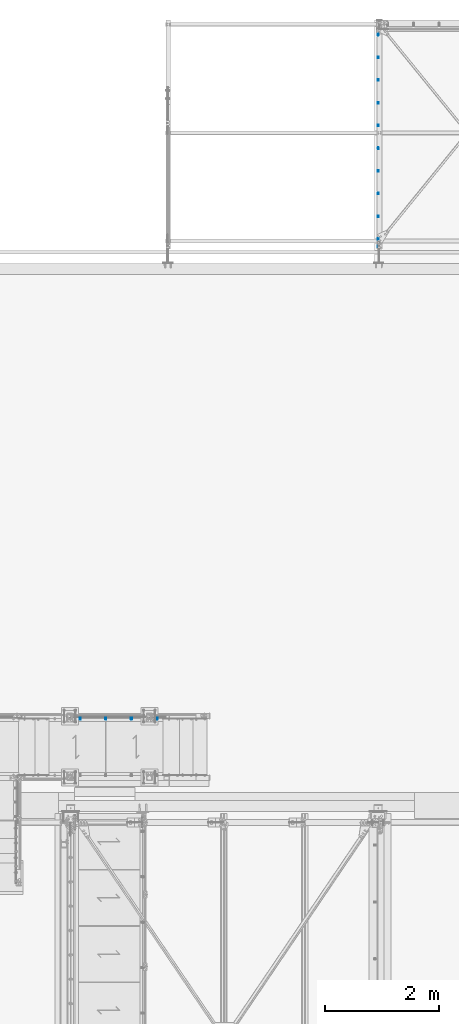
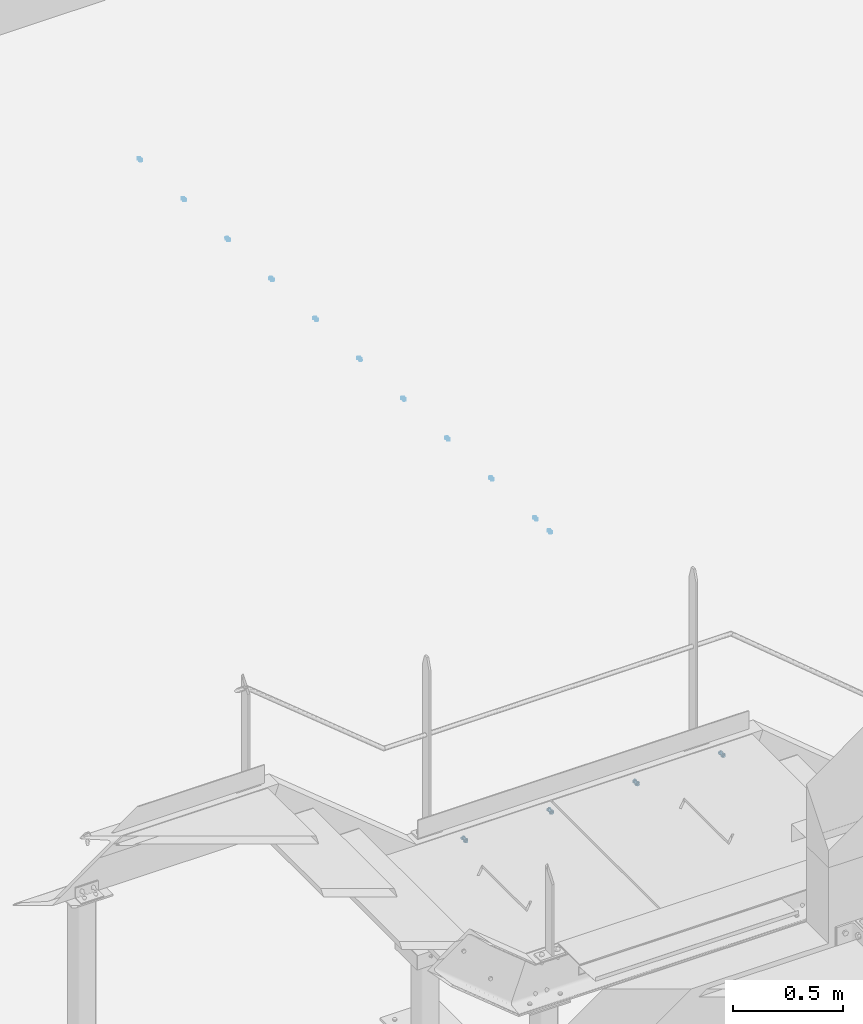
# One storey, part 137 of 362: 2 mechanical fasteners.
"""IFC2X3 building model written with IfcOpenShell, lengths in millimetres."""

import ifcopenshell
import ifcopenshell.guid

model = None  # the IFC model being written
_history = None  # IfcOwnerHistory: only IFC2X3 demands one
_inside = {}  # id of a spatial element -> (the spatial element, [elements in it])
_under = {}  # id of a project, library or spatial element -> (it, [spatial elements below it])
_declared = {}  # id of a project -> (the project, [libraries it declares])
_typed = {}  # id of a type object -> (the type object, [elements of that type])
_made_of = {}  # id of a material, layer set ... -> (it, [elements and type objects made of it])


def new_model(schema):
    """Start an empty IFC model of exactly this schema.

    Asked for "IFC4X3", IfcOpenShell would pick the latest addendum, in which some entities
    have other attributes; the version numbers below select the first issue.
    IFC2X3 requires an IfcOwnerHistory on every rooted entity: one is made here for all.
    """
    global model, _history
    if schema == "IFC4X3":
        model = ifcopenshell.file(schema_version=(4, 3, 0, 0))
    else:
        model = ifcopenshell.file(schema=schema)
    _inside.clear()
    _under.clear()
    _declared.clear()
    _typed.clear()
    _made_of.clear()
    _history = None
    if model.schema == "IFC2X3":
        org = make("IfcOrganization", Name="unknown")
        user = make(
            "IfcPersonAndOrganization",
            ThePerson=make("IfcPerson", FamilyName="unknown"),
            TheOrganization=org,
        )
        app = make(
            "IfcApplication",
            ApplicationDeveloper=org,
            Version="unknown",
            ApplicationFullName="unknown",
            ApplicationIdentifier="unknown",
        )
        _history = make(
            "IfcOwnerHistory",
            OwningUser=user,
            OwningApplication=app,
            ChangeAction="ADDED",
            CreationDate=0,
        )
    return model


def make(cls, **values):
    """One entity of the class cls with the attributes given. An attribute that is None is left unset."""
    return model.create_entity(
        cls, **{name: value for name, value in values.items() if value is not None}
    )


def rooted(cls, **values):
    """An entity with a GlobalId (a new one), such as an element, a storey or a relation."""
    return make(cls, GlobalId=ifcopenshell.guid.new(), OwnerHistory=_history, **values)


def si_unit(unit_type, name, prefix=None):
    """IfcSIUnit, for example si_unit("LENGTHUNIT", "METRE", prefix="MILLI")."""
    return make("IfcSIUnit", UnitType=unit_type, Prefix=prefix, Name=name)


def assignment(units):
    """IfcUnitAssignment: the units of a project."""
    return None if units is None else make("IfcUnitAssignment", Units=units)


def point(xyz):
    """IfcCartesianPoint."""
    return None if xyz is None else make("IfcCartesianPoint", Coordinates=xyz)


def direction(xyz):
    """IfcDirection."""
    return None if xyz is None else make("IfcDirection", DirectionRatios=xyz)


def frame(location, z_axis=None, x_axis=None):
    """IfcAxis2Placement3D, a coordinate frame: its origin and axes. An axis left out is left unset."""
    return make(
        "IfcAxis2Placement3D",
        Location=point(location),
        Axis=direction(z_axis),
        RefDirection=direction(x_axis),
    )


def frame_2d(location, x_axis=None):
    """IfcAxis2Placement2D, a coordinate frame in the plane: its origin and x axis."""
    return make(
        "IfcAxis2Placement2D", Location=point(location), RefDirection=direction(x_axis)
    )


def origin_with_axes():
    """The frame at (0, 0, 0) with the z axis (0, 0, 1) and the x axis (1, 0, 0) written out."""
    return frame((0.0, 0.0, 0.0), z_axis=(0.0, 0.0, 1.0), x_axis=(1.0, 0.0, 0.0))


def origin_2d_with_axis():
    """The frame at (0, 0) in the plane with the x axis (1, 0) written out."""
    return frame_2d((0.0, 0.0), x_axis=(1.0, 0.0))


def place(relative_to, where):
    """IfcLocalPlacement: puts the frame where relative to a parent placement (None: the world)."""
    return make(
        "IfcLocalPlacement", PlacementRelTo=relative_to, RelativePlacement=where
    )


def context(
    kind, dimensions, precision=None, world=None, true_north=None, identifier=None
):
    """IfcGeometricRepresentationContext, for example the 3D "Model" context."""
    return make(
        "IfcGeometricRepresentationContext",
        ContextIdentifier=identifier,
        ContextType=kind,
        CoordinateSpaceDimension=dimensions,
        Precision=precision,
        WorldCoordinateSystem=world,
        TrueNorth=true_north,
    )


def subcontext(parent, identifier, kind, view, scale=None):
    """IfcGeometricRepresentationSubContext, for example "Body" below "Model"."""
    return make(
        "IfcGeometricRepresentationSubContext",
        ContextIdentifier=identifier,
        ContextType=kind,
        ParentContext=parent,
        TargetScale=scale,
        TargetView=view,
    )


def project(units=None, contexts=None):
    """IfcProject with its units and contexts."""
    return rooted(
        "IfcProject",
        Name="project",
        RepresentationContexts=contexts,
        UnitsInContext=assignment(units),
    )


def spatial(cls, under=None, at=None, **own):
    """A site, building, storey or space (cls), placed at a placement, below another one or the project."""
    s = rooted(cls, ObjectPlacement=at, **own)
    if under is not None:
        _under.setdefault(under.id(), (under, []))[1].append(s)
    return s


def polyline(points):
    """IfcPolyline through the points."""
    return make("IfcPolyline", Points=[point(p) for p in points])


def circle_curve(where, radius):
    """IfcCircle in the frame where."""
    return make("IfcCircle", Position=where, Radius=radius)


def parameter(value):
    """IfcParameterValue: where a trimmed curve begins or ends, as a parameter of its basis curve."""
    return model.create_entity("IfcParameterValue", value)


def trimmed(basis, trim1, trim2, sense, master):
    """IfcTrimmedCurve: the piece of a basis curve between two trims."""
    return make(
        "IfcTrimmedCurve",
        BasisCurve=basis,
        Trim1=trim1,
        Trim2=trim2,
        SenseAgreement=sense,
        MasterRepresentation=master,
    )


def segment(curve, same_sense, transition):
    """IfcCompositeCurveSegment."""
    return make(
        "IfcCompositeCurveSegment",
        Transition=transition,
        SameSense=same_sense,
        ParentCurve=curve,
    )


def composite_curve(segments, self_intersect=None):
    """IfcCompositeCurve: segments joined end to end."""
    return make("IfcCompositeCurve", Segments=segments, SelfIntersect=self_intersect)


def profile(cls, at=None, kind="AREA", **sizes):
    """A parametric profile (cls). Its sizes go by their IFC names, for example OverallWidth=200.0."""
    return make(cls, ProfileType=kind, Position=at, **sizes)


def circle(**sizes):
    """IfcCircleProfileDef."""
    return profile("IfcCircleProfileDef", **sizes)


def outline(outer, holes=None, kind="AREA"):
    """IfcArbitraryClosedProfileDef: a profile drawn as a closed curve; with holes, ...WithVoids."""
    if holes is None:
        return make("IfcArbitraryClosedProfileDef", ProfileType=kind, OuterCurve=outer)
    return make(
        "IfcArbitraryProfileDefWithVoids",
        ProfileType=kind,
        OuterCurve=outer,
        InnerCurves=holes,
    )


def extrude(swept, where, along, depth):
    """IfcExtrudedAreaSolid: the profile swept, set in the frame where, extruded along a direction by depth."""
    return make(
        "IfcExtrudedAreaSolid",
        SweptArea=swept,
        Position=where,
        ExtrudedDirection=direction(along),
        Depth=depth,
    )


def shape(context_of_items, identifier, shape_type, items):
    """IfcShapeRepresentation: the items that make up one representation, for example the "Body"."""
    return make(
        "IfcShapeRepresentation",
        ContextOfItems=context_of_items,
        RepresentationIdentifier=identifier,
        RepresentationType=shape_type,
        Items=items,
    )


def source(mapping_origin, context_of_items, identifier, shape_type, items):
    """IfcRepresentationMap: a shape defined once, which mapped items show again and again."""
    return make(
        "IfcRepresentationMap",
        MappingOrigin=mapping_origin,
        MappedRepresentation=shape(context_of_items, identifier, shape_type, items),
    )


def transform(
    local_origin,
    x_axis=None,
    y_axis=None,
    z_axis=None,
    scale=None,
    scale2=None,
    scale3=None,
    uniform=True,
):
    """IfcCartesianTransformationOperator3D, or its non-uniform kind. x_axis, y_axis, z_axis: its Axis1, 2, 3."""
    if uniform:
        return make(
            "IfcCartesianTransformationOperator3D",
            Axis1=direction(x_axis),
            Axis2=direction(y_axis),
            LocalOrigin=point(local_origin),
            Scale=scale,
            Axis3=direction(z_axis),
        )
    return make(
        "IfcCartesianTransformationOperator3DnonUniform",
        Axis1=direction(x_axis),
        Axis2=direction(y_axis),
        LocalOrigin=point(local_origin),
        Scale=scale,
        Axis3=direction(z_axis),
        Scale2=scale2,
        Scale3=scale3,
    )


def mapped(mapping_source, mapping_target):
    """IfcMappedItem: shows the shape of a source again, moved by a transform."""
    return make(
        "IfcMappedItem", MappingSource=mapping_source, MappingTarget=mapping_target
    )


def material(Name=None, Category=None):
    """IfcMaterial."""
    return make("IfcMaterial", Name=Name, Category=Category)


def made_of(thing, what):
    """Note that an element or type object is made of a material, layer set ...; save() writes the relation."""
    if what is not None:
        _made_of.setdefault(what.id(), (what, []))[1].append(thing)
    return thing


def type_object(cls, material=None, **own):
    """A type object (cls), such as IfcWallType, which elements share."""
    return made_of(rooted(cls, **own), material)


def element(
    cls,
    number,
    at=None,
    inside=None,
    cuts=None,
    type_object=None,
    material=None,
    context=None,
    identifier="Body",
    shape_type=None,
    held_by="IfcProductDefinitionShape",
    body=None,
    shapes=None,
    **own,
):
    """One element of the class cls, such as IfcWall. Its Tag is "e" and its number.

    at: its placement. inside: the storey or other place that contains it. cuts: it is an
    opening in that element (IfcRelVoidsElement). A single representation is given by context,
    identifier, shape_type and body (its items); several are given by shapes. held_by: the class
    of the entity that holds the representations. save() writes the other relations.
    """
    e = rooted(cls, Tag="e%d" % number, ObjectPlacement=at, **own)
    if body is not None:
        shapes = [shape(context, identifier, shape_type, body)]
    if shapes is not None:
        e.Representation = make(held_by, Representations=shapes)
    if inside is not None:
        _inside.setdefault(inside.id(), (inside, []))[1].append(e)
    if cuts is not None:
        rooted(
            "IfcRelVoidsElement", RelatingBuildingElement=cuts, RelatedOpeningElement=e
        )
    if type_object is not None:
        _typed.setdefault(type_object.id(), (type_object, []))[1].append(e)
    return made_of(e, material)


def aggregate(whole, parts):
    """IfcRelAggregates: a whole, such as a stair, and the parts it consists of."""
    return rooted("IfcRelAggregates", RelatingObject=whole, RelatedObjects=parts)


def save(model, path):
    """Write the relations noted so far, then the file.

    IfcRelAggregates (storeys below a building ...), IfcRelContainedInSpatialStructure (elements
    in a storey), IfcRelDefinesByType, IfcRelAssociatesMaterial and IfcRelDeclares: one each for
    every whole, place, type object, material and project.
    """
    for whole, parts in _under.values():
        aggregate(whole, parts)
    for where, things in _inside.values():
        rooted(
            "IfcRelContainedInSpatialStructure",
            RelatedElements=things,
            RelatingStructure=where,
        )
    for kind, things in _typed.values():
        rooted("IfcRelDefinesByType", RelatedObjects=things, RelatingType=kind)
    for what, things in _made_of.values():
        rooted("IfcRelAssociatesMaterial", RelatedObjects=things, RelatingMaterial=what)
    for by, libraries in _declared.values():
        rooted("IfcRelDeclares", RelatingContext=by, RelatedDefinitions=libraries)
    model.write(path)


model = new_model("IFC2X3")

# Units and contexts
model_context = context("Model", 3, precision=1e-05, world=origin_with_axes())
body_context = subcontext(model_context, "Body", "Model", "MODEL_VIEW")
ifc_project = project(units=[si_unit("LENGTHUNIT", "METRE", prefix="MILLI"), si_unit("AREAUNIT", "SQUARE_METRE"), si_unit("VOLUMEUNIT", "CUBIC_METRE"), si_unit("MASSUNIT", "GRAM", prefix="KILO"), si_unit("TIMEUNIT", "SECOND"), si_unit("PLANEANGLEUNIT", "RADIAN"), si_unit("SOLIDANGLEUNIT", "STERADIAN"), si_unit("THERMODYNAMICTEMPERATUREUNIT", "DEGREE_CELSIUS"), si_unit("LUMINOUSINTENSITYUNIT", "LUMEN")], contexts=[model_context])

# Site, building, storey
site_placement = place(None, origin_with_axes())
site = spatial("IfcSite", under=ifc_project, at=site_placement, Name="Undefined", CompositionType="ELEMENT")
building_placement = place(site_placement, origin_with_axes())
building = spatial("IfcBuilding", under=site, at=building_placement, Name="Undefined", CompositionType="ELEMENT")
storey_placement = place(building_placement, origin_with_axes())
storey = spatial("IfcBuildingStorey", under=building, at=storey_placement, Name="Undefined", CompositionType="ELEMENT", Elevation=0.0)

# Mechanical fasteners
ifc_material_1 = material(Name="8.8-SB-GALVA")
mechanical_fastener_type = type_object("IfcMechanicalFastenerType", Name="Bolt assembly")
shared_shape_1 = source(origin_with_axes(), body_context, "Body", "SweptSolid", [
    extrude(circle(Radius=7.0, at=origin_2d_with_axis()), frame((0.0, -9.89949506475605, 0.0), z_axis=(0.0, 1.0, 0.0), x_axis=(1.0, 0.0, 0.0)), (0.0, 0.0, 1.0), 10.0),
    extrude(circle(Radius=7.0, at=origin_2d_with_axis()), frame((0.0, -0.100011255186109, 0.0), z_axis=(0.0, 1.0, 0.0), x_axis=(1.0, 0.0, 0.0)), (0.0, 0.0, 1.0), 5.1),
    extrude(outline(polyline([(10.39230484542, 0.0), (5.19615242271, 9.00000000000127), (-5.19615242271, 9.00000000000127), (-10.39230484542, 0.0), (-5.19615242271, -9.00000000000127), (5.19615242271, -9.00000000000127), (10.39230484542, 0.0)])), frame((0.0, -17.919495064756, 0.0), z_axis=(0.0, 1.0, 0.0), x_axis=(1.0, 0.0, 0.0)), (0.0, 0.0, 1.0), 7.92),
    extrude(circle(Radius=6.0, at=origin_2d_with_axis()), frame((0.0, -9.99949506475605, 0.0), z_axis=(0.0, 1.0, 0.0), x_axis=(1.0, 0.0, 0.0)), (0.0, 0.0, 1.0), 30.0),
    extrude(outline(polyline([(11.5008173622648, 0.0), (5.7504086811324, 9.96000000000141), (-5.7504086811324, 9.96000000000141), (-11.5008173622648, 0.0), (-5.7504086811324, -9.96000000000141), (5.7504086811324, -9.96000000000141), (11.5008173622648, 0.0)])), frame((0.0, 5.0, 0.0), z_axis=(0.0, 1.0, 0.0), x_axis=(1.0, 0.0, 0.0)), (0.0, 0.0, 1.0), 7.92),
])
mechanical_fastener_1_placement = place(storey_placement, frame((24314.9999902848, 17030.0001227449, 8049.9999407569), z_axis=(1.0, 0.0, 0.0), x_axis=(0.0, 0.0, 1.0)))
element("IfcMechanicalFastener", 1, at=mechanical_fastener_1_placement, inside=storey, type_object=mechanical_fastener_type, material=ifc_material_1, Name="Bolt assembly", NominalDiameter=12.0, NominalLength=30.0, context=body_context, shape_type="MappedRepresentation", body=[
    mapped(shared_shape_1, transform((0.0, 0.0, 675.0))),
    mapped(shared_shape_1, transform((0.0, 0.0, 225.0))),
    mapped(shared_shape_1, transform((0.0, 0.0, -225.0))),
    mapped(shared_shape_1, transform((0.0, 0.0, -675.0))),
])
ifc_material_2 = material(Name="#_SB-8.8-ZINGUE")
shared_shape_2 = source(origin_with_axes(), body_context, "Body", "SweptSolid", [
    extrude(outline(composite_curve([segment(polyline([(-7.0, 7.0), (7.0, 7.0)]), True, "CONTINUOUS"), segment(trimmed(circle_curve(frame_2d((7.0, 0.0), x_axis=(0.0, 1.0)), 7.0), [parameter(0.0)], [parameter(3.14159265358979)], False, "PARAMETER"), True, "CONTINUOUS"), segment(polyline([(7.0, -7.0), (-7.0, -7.0)]), True, "CONTINUOUS"), segment(trimmed(circle_curve(frame_2d((-7.0, 0.0), x_axis=(0.0, -1.0)), 7.0), [parameter(0.0)], [parameter(3.14159265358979)], False, "PARAMETER"), True, "DISCONTINUOUS")], self_intersect=False)), frame((0.0, 0.0, 0.0), z_axis=(0.0, 1.0, 0.0), x_axis=(1.0, 0.0, 0.0)), (0.0, 0.0, 1.0), 7.5),
])
mechanical_fastener_2_placement = place(storey_placement, frame((28882.0000011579, 29060.1369729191, 2687.20204817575), z_axis=(-1.0, 0.0, 0.0), x_axis=(0.0, -0.998630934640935, 0.0523092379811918)))
element("IfcMechanicalFastener", 2, at=mechanical_fastener_2_placement, inside=storey, type_object=mechanical_fastener_type, material=ifc_material_2, Name="Bolt assembly", NominalDiameter=12.0, NominalLength=7.40000009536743, context=body_context, shape_type="MappedRepresentation", body=[
    mapped(shared_shape_2, transform((0.0, 0.0, 0.0))),
    mapped(shared_shape_2, transform((400.0, 0.0, 0.0))),
    mapped(shared_shape_2, transform((800.0, 0.0, 0.0))),
    mapped(shared_shape_2, transform((1200.0, 0.0, 0.0))),
    mapped(shared_shape_2, transform((1600.0, 0.0, 0.0))),
    mapped(shared_shape_2, transform((2000.0, 0.0, 0.0))),
    mapped(shared_shape_2, transform((2400.00000000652, -2.00816430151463e-09, 0.0))),
    mapped(shared_shape_2, transform((2800.0000000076, -2.34285835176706e-09, 0.0))),
    mapped(shared_shape_2, transform((3200.00000000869, -2.6775524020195e-09, 0.0))),
    mapped(shared_shape_2, transform((3600.00000000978, -3.01224645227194e-09, 0.0))),
    mapped(shared_shape_2, transform((3730.00000001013, -3.12138581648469e-09, 0.0))),
])

save(model, "model.ifc")
